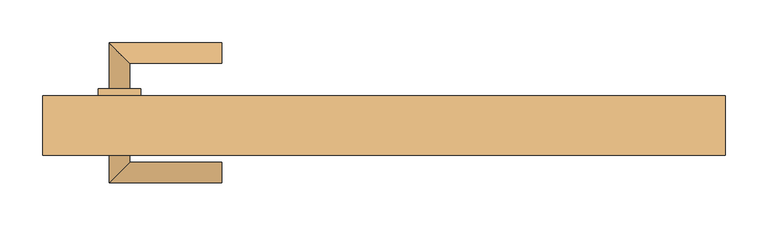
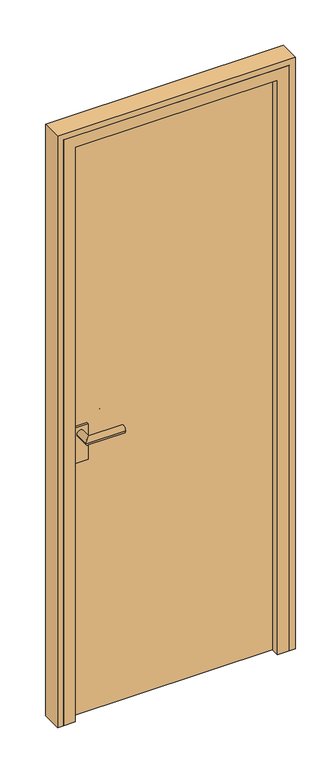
"""IFC4 building model written with IfcOpenShell, lengths in millimetres: door geometry, Дверь однопольная : дерев.внутр.глух 8х21 Л."""

from ifc_helpers import new_model, si_unit, frame, origin, origin_with_axes, place, context, project, spatial, polyline, circle_curve, ellipse_curve, outline, extrude, faceted_brep, source, transform, mapped, element, save
from ifc_brep_helpers import plane_surface, cylinder_surface, advanced_brep


def door_b721ba65(model_context):
    return source(origin(), model_context, "Body", "SolidModel", [
        advanced_brep(
        [(-190.0, 117.0, 1000.0), (-190.0, 93.0, 1000.0), (-322.0, 117.0, 1000.0), (-298.0, 93.0, 1000.0), (-322.0, 63.0, 1000.0), (-298.0, 63.0, 1000.0), (-322.0, -47.0, 1000.0), (-298.0, -23.0, 1000.0), (-298.0, 7.0, 1000.0), (-322.0, 7.0, 1000.0), (-190.0, -47.0, 1000.0), (-190.0, -23.0, 1000.0), (-335.0, 63.0, 1025.0), (-285.0, 63.0, 1025.0), (-285.0, 63.0, 900.0), (-335.0, 63.0, 900.0), (-335.0, 7.0, 1025.0), (-335.0, 7.0, 900.0), (-285.0, 7.0, 900.0), (-285.0, 7.0, 1025.0)],
        [
            (0, 1, circle_curve(frame((-190.0, 105.0, 1000.0), z_axis=(1.0, 0.0, 0.0), x_axis=(0.0, -1.0, 0.0)), 12.0)),
            (1, 0, circle_curve(frame((-190.0, 105.0, 1000.0), z_axis=(1.0, 0.0, 0.0), x_axis=(0.0, -1.0, 0.0)), 12.0)),
            (0, 2),
            (2, 3, ellipse_curve(frame((-310.0, 105.0, 1000.0), z_axis=(0.7071067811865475, 0.7071067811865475, 0.0), x_axis=(0.7071067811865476, -0.7071067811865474, 0.0)), 16.9705627, 12.0)),
            (3, 1),
            (3, 2, ellipse_curve(frame((-310.0, 105.0, 1000.0), z_axis=(0.7071067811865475, 0.7071067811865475, 0.0), x_axis=(0.7071067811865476, -0.7071067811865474, 0.0)), 16.9705627, 12.0)),
            (2, 4),
            (4, 5, circle_curve(frame((-310.0, 63.0, 1000.0), z_axis=(0.0, 1.0, 0.0), x_axis=(1.0, 0.0, 0.0)), 12.0)),
            (5, 3),
            (6, 7, ellipse_curve(frame((-310.0, -35.0, 1000.0), z_axis=(-0.7071067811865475, 0.7071067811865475, 0.0), x_axis=(0.7071067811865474, 0.7071067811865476, 0.0)), 16.9705627, 12.0)),
            (7, 8),
            (8, 9, circle_curve(frame((-310.0, 7.0, 1000.0), z_axis=(0.0, -1.0, 0.0), x_axis=(1.0, 0.0, 0.0)), 12.0)),
            (9, 6),
            (5, 4, circle_curve(frame((-310.0, 63.0, 1000.0), z_axis=(0.0, 1.0, 0.0), x_axis=(1.0, 0.0, 0.0)), 12.0)),
            (7, 6, ellipse_curve(frame((-310.0, -35.0, 1000.0), z_axis=(-0.7071067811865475, 0.7071067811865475, 0.0), x_axis=(0.7071067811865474, 0.7071067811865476, 0.0)), 16.9705627, 12.0)),
            (9, 8, circle_curve(frame((-310.0, 7.0, 1000.0), z_axis=(0.0, -1.0, 0.0), x_axis=(1.0, 0.0, 0.0)), 12.0)),
            (10, 11, circle_curve(frame((-190.0, -35.0, 1000.0), z_axis=(1.0, 0.0, 0.0), x_axis=(0.0, 1.0, 0.0)), 12.0)),
            (11, 10, circle_curve(frame((-190.0, -35.0, 1000.0), z_axis=(1.0, 0.0, 0.0), x_axis=(0.0, 1.0, 0.0)), 12.0)),
            (6, 10),
            (11, 7),
            (12, 13),
            (13, 14),
            (14, 15),
            (15, 12),
            (16, 17),
            (17, 18),
            (18, 19),
            (19, 16),
            (15, 17),
            (16, 12),
            (14, 18),
            (13, 19),
        ],
        [
            plane_surface(frame((-190.0, 105.0, 1000.0), z_axis=(1.0, 0.0, 0.0), x_axis=(0.0, 0.0, 1.0))),
            cylinder_surface(frame((-190.0, 105.0, 1000.0), z_axis=(1.0, 0.0, 0.0), x_axis=(0.0, -1.0, 0.0)), 12.0),
            cylinder_surface(frame((-310.0, 105.0, 1000.0), z_axis=(0.0, 1.0, 0.0), x_axis=(1.0, 0.0, 0.0)), 12.0),
            plane_surface(frame((-190.0, -35.0, 1000.0), z_axis=(1.0, 0.0, 0.0), x_axis=(0.0, 0.0, 1.0))),
            cylinder_surface(frame((-310.0, -35.0, 1000.0), z_axis=(-1.0, 0.0, 0.0), x_axis=(0.0, 1.0, 0.0)), 12.0),
            plane_surface(frame((-335.0, 63.0, 1025.0), z_axis=(0.0, 1.0, 0.0), x_axis=(0.0, 0.0, 1.0))),
            plane_surface(frame((-335.0, 7.0, 1025.0), z_axis=(0.0, -1.0, 0.0), x_axis=(0.0, 0.0, -1.0))),
            plane_surface(frame((-335.0, 7.0, 1025.0), z_axis=(-1.0, 0.0, 0.0), x_axis=(0.0, 1.0, 0.0))),
            plane_surface(frame((-335.0, 7.0, 900.0), z_axis=(0.0, 0.0, -1.0), x_axis=(0.0, 1.0, 0.0))),
            plane_surface(frame((-285.0, 7.0, 900.0), z_axis=(1.0, 0.0, 0.0), x_axis=(0.0, 1.0, 0.0))),
            plane_surface(frame((-285.0, 7.0, 1025.0), z_axis=(0.0, 0.0, 1.0), x_axis=(0.0, 1.0, 0.0))),
        ],
        [
            (0, [[1, 2]]),
            (1, [[-1, 3, 4, 5]]),
            (1, [[-2, -5, 6, -3]]),
            (2, [[-4, 7, 8, 9]]),
            (2, [[10, 11, 12, 13]]),
            (2, [[-6, -9, 14, -7]]),
            (2, [[15, -13, 16, -11]]),
            (3, [[17, 18]]),
            (4, [[-10, 19, -18, 20]]),
            (4, [[-15, -20, -17, -19]]),
            (5, [[21, 22, 23, 24], [-8, -14]]),
            (6, [[25, 26, 27, 28], [-12, -16]]),
            (7, [[-24, 29, -25, 30]]),
            (8, [[-23, 31, -26, -29]]),
            (9, [[-22, 32, -27, -31]]),
            (10, [[-21, -30, -28, -32]]),
        ],
    ),
        extrude(outline(polyline([(350.0, 15.0), (-350.0, 15.0), (-350.0, 55.0), (350.0, 55.0), (350.0, 15.0)])), origin_with_axes(), (0.0, 0.0, 1.0), 2050.0),
        extrude(outline(polyline([(0.0, 400.0), (2100.0, 400.0), (2100.0, -400.0), (0.0, -400.0), (0.0, -380.0), (2080.0, -380.0), (2080.0, 380.0), (0.0, 380.0), (0.0, 400.0)])), frame((0.0, -15.0, 0.0), z_axis=(0.0, 1.0, 0.0), x_axis=(0.0, 0.0, 1.0)), (0.0, 0.0, 1.0), 70.0),
        faceted_brep([(-380.0, -15.0, 0.0), (-380.0, 55.0, 0.0), (-350.0, 55.0, 0.0), (-350.0, 15.0, 0.0), (-340.0, 15.0, 0.0), (-340.0, -15.0, 0.0), (-380.0, -15.0, 2080.0), (-380.0, 55.0, 2080.0), (380.0, 55.0, 2080.0), (380.0, 55.0, 0.0), (350.0, 55.0, 0.0), (350.0, 55.0, 2050.0), (-350.0, 55.0, 2050.0), (-350.0, 15.0, 2050.0), (350.0, 15.0, 2050.0), (350.0, 15.0, 0.0), (340.0, 15.0, 0.0), (340.0, 15.0, 2040.0), (-340.0, 15.0, 2040.0), (-340.0, -15.0, 2040.0), (340.0, -15.0, 2040.0), (340.0, -15.0, 0.0), (380.0, -15.0, 0.0), (380.0, -15.0, 2080.0)], [[[0, 1, 2, 3, 4, 5]], [[1, 0, 6, 7]], [[2, 1, 7, 8, 9, 10, 11, 12]], [[3, 2, 12, 13]], [[4, 3, 13, 14, 15, 16, 17, 18]], [[5, 4, 18, 19]], [[0, 5, 19, 20, 21, 22, 23, 6]], [[7, 6, 23, 8]], [[13, 12, 11, 14]], [[19, 18, 17, 20]], [[22, 21, 16, 15, 10, 9]], [[8, 23, 22, 9]], [[14, 11, 10, 15]], [[20, 17, 16, 21]]]),
    ])


if __name__ == "__main__":
    model = new_model("IFC4")
    model_context = context("Model", 3, world=origin())
    ifc_project = project(units=[si_unit("LENGTHUNIT", "METRE", prefix="MILLI")], contexts=[model_context])
    site = spatial("IfcSite", under=ifc_project)
    building = spatial("IfcBuilding", under=site)
    placement = place(None, origin())
    door_shape = door_b721ba65(model_context)
    element("IfcDoor", 1, ObjectType="Дверь однопольная : дерев.внутр.глух 8х21 Л", at=placement, inside=building, context=model_context, shape_type="MappedRepresentation", body=[
        mapped(door_shape, transform((0.0, 0.0, 0.0), x_axis=(1.0, 0.0, 0.0), y_axis=(0.0, 1.0, 0.0), z_axis=(0.0, 0.0, 1.0))),
    ])
    save(model, "model.ifc")
